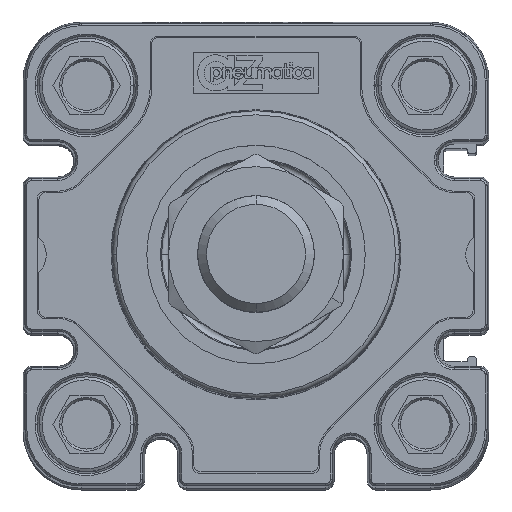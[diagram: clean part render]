
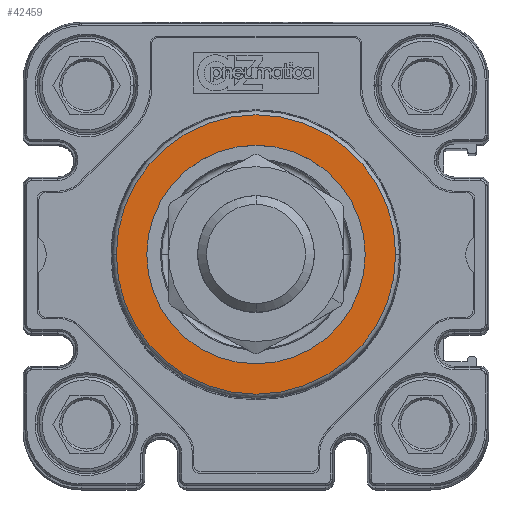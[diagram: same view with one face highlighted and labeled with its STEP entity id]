
A CAD part, top view. The second image highlights one B-rep face of the part: STEP entity #42459.
In plain terms, the highlighted planar face has unit normal (0, 0, 1) as drawn and (0, 0, -1) by its records, which use the part's own axes.
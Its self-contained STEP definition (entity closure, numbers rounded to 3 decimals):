
#1035 = CARTESIAN_POINT ( 'NONE',  ( 0., 0., -57.1 ) ) ;
#1137 = DIRECTION ( 'NONE',  ( 0., 0., 1. ) ) ;
#1240 = DIRECTION ( 'NONE',  ( 0., 0., -1. ) ) ;
#1546 = DIRECTION ( 'NONE',  ( 1., 0., 0. ) ) ;
#6561 = VERTEX_POINT ( 'NONE', #24116 ) ;
#10693 = ORIENTED_EDGE ( 'NONE', *, *, #51842, .T. ) ;
#14421 = AXIS2_PLACEMENT_3D ( 'NONE', #34646, #19187, #64221 ) ;
#15885 = DIRECTION ( 'NONE',  ( 0., 0., -1. ) ) ;
#16508 = VERTEX_POINT ( 'NONE', #56739 ) ;
#17382 = EDGE_LOOP ( 'NONE', ( #10693, #36592 ) ) ;
#19187 = DIRECTION ( 'NONE',  ( 0., 0., 1. ) ) ;
#20980 = ORIENTED_EDGE ( 'NONE', *, *, #54573, .T. ) ;
#24116 = CARTESIAN_POINT ( 'NONE',  ( -15., 0., -57.1 ) ) ;
#25122 = AXIS2_PLACEMENT_3D ( 'NONE', #33979, #53289, #59181 ) ;
#26710 = VERTEX_POINT ( 'NONE', #49575 ) ;
#28597 = FACE_OUTER_BOUND ( 'NONE', #57304, .T. ) ;
#30327 = DIRECTION ( 'NONE',  ( -1., 0., 0. ) ) ;
#31864 = PLANE ( 'NONE',  #40286 ) ;
#33979 = CARTESIAN_POINT ( 'NONE',  ( 0., 0., -57.1 ) ) ;
#34646 = CARTESIAN_POINT ( 'NONE',  ( 0., 0., -57.1 ) ) ;
#36592 = ORIENTED_EDGE ( 'NONE', *, *, #40086, .T. ) ;
#37123 = ORIENTED_EDGE ( 'NONE', *, *, #40262, .T. ) ;
#37918 = FACE_BOUND ( 'NONE', #17382, .T. ) ;
#39187 = DIRECTION ( 'NONE',  ( -1., 0., 0. ) ) ;
#40086 = EDGE_CURVE ( 'NONE', #6561, #16508, #45866, .T. ) ;
#40246 = CIRCLE ( 'NONE', #25122, 19.179 ) ;
#40262 = EDGE_CURVE ( 'NONE', #26710, #41564, #47375, .T. ) ;
#40286 = AXIS2_PLACEMENT_3D ( 'NONE', #1035, #1240, #39187 ) ;
#41564 = VERTEX_POINT ( 'NONE', #46396 ) ;
#42459 = ADVANCED_FACE ( 'NONE', ( #28597, #37918 ), #31864, .T. ) ;
#45616 = AXIS2_PLACEMENT_3D ( 'NONE', #51100, #1137, #1546 ) ;
#45866 = CIRCLE ( 'NONE', #14421, 15. ) ;
#46396 = CARTESIAN_POINT ( 'NONE',  ( -19.179, 0., -57.1 ) ) ;
#47375 = CIRCLE ( 'NONE', #55643, 19.179 ) ;
#49575 = CARTESIAN_POINT ( 'NONE',  ( 19.179, 0., -57.1 ) ) ;
#51100 = CARTESIAN_POINT ( 'NONE',  ( 0., 0., -57.1 ) ) ;
#51842 = EDGE_CURVE ( 'NONE', #16508, #6561, #63946, .T. ) ;
#53289 = DIRECTION ( 'NONE',  ( 0., 0., -1. ) ) ;
#54573 = EDGE_CURVE ( 'NONE', #41564, #26710, #40246, .T. ) ;
#55643 = AXIS2_PLACEMENT_3D ( 'NONE', #59839, #15885, #30327 ) ;
#56739 = CARTESIAN_POINT ( 'NONE',  ( 15., 0., -57.1 ) ) ;
#57304 = EDGE_LOOP ( 'NONE', ( #37123, #20980 ) ) ;
#59181 = DIRECTION ( 'NONE',  ( -1., 0., 0. ) ) ;
#59839 = CARTESIAN_POINT ( 'NONE',  ( 0., 0., -57.1 ) ) ;
#63946 = CIRCLE ( 'NONE', #45616, 15. ) ;
#64221 = DIRECTION ( 'NONE',  ( 1., 0., 0. ) ) ;
